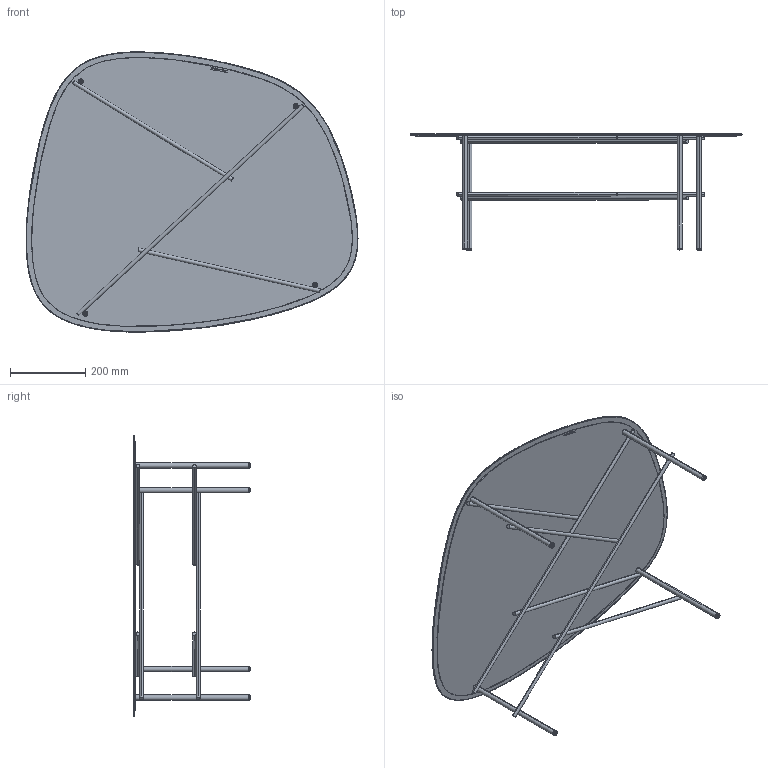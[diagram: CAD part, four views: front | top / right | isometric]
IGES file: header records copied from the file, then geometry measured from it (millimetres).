
Start section: SolidWorks IGES file using analytic representation for surfaces
Global section: file name: \\utenti\Dati Utenti\Tecnico\DC\2D - 3D per sito\3D\DeCastelli-3D-Syro XL 88.igs; native system: SolidWorks 2022; preprocessor: SolidWorks 2022; author: Simonep; date: 240729.120930; units: millimetre
Bounding box: 879.61 x 308.22 x 742.65 mm (x, y, z)
Surface area: 1764521.3 mm2 (no closed solid volume)
Topology: 0 solids, 0 shells, 101 faces, 1335 edges, 1327 vertices
Faces by surface type: bspline 73, revolution 28
